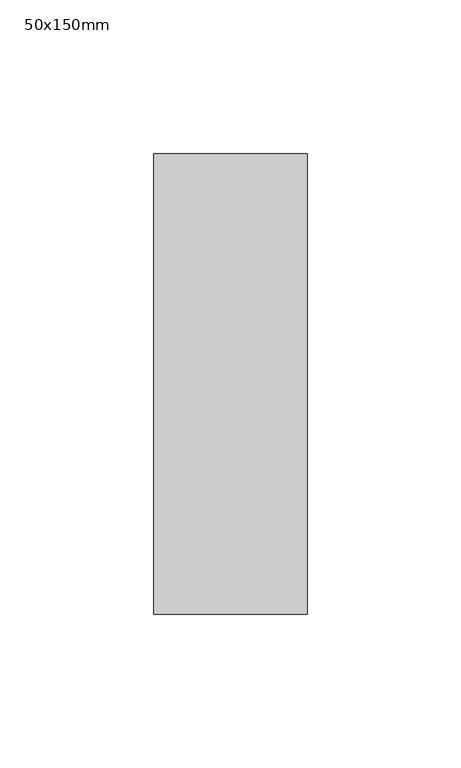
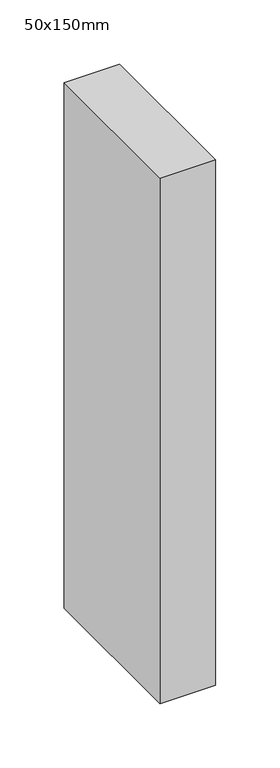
"""IFC4 building model written with IfcOpenShell, lengths in millimetres: member geometry, 長方形マリオン : 50x150mm."""

from ifc_helpers import new_model, si_unit, frame, origin, place, context, project, spatial, polyline, outline, extrude, source, transform, mapped, element, save


def member_50x150mm_b3666dbd(model_context):
    return source(origin(), model_context, "Body", "SweptSolid", [
        extrude(outline(polyline([(0.0, 75.0), (0.0, -75.0), (-50.0, -75.0), (-50.0, 75.0), (0.0, 75.0)])), frame((0.0, 0.0, -500.0), z_axis=(0.0, 0.0, 1.0), x_axis=(1.0, 0.0, 0.0)), (0.0, 0.0, 1.0), 500.0),
    ])


if __name__ == "__main__":
    model = new_model("IFC4")
    model_context = context("Model", 3, world=origin())
    ifc_project = project(units=[si_unit("LENGTHUNIT", "METRE", prefix="MILLI")], contexts=[model_context])
    site = spatial("IfcSite", under=ifc_project)
    building = spatial("IfcBuilding", under=site)
    placement = place(None, origin())
    member_50x150mm_shape = member_50x150mm_b3666dbd(model_context)
    element("IfcMember", 1, ObjectType="長方形マリオン : 50x150mm", at=placement, inside=building, context=model_context, shape_type="MappedRepresentation", body=[
        mapped(member_50x150mm_shape, transform((0.0, 0.0, 0.0), x_axis=(1.0, 0.0, 0.0), y_axis=(0.0, 1.0, 0.0), z_axis=(0.0, 0.0, 1.0))),
    ])
    save(model, "model.ifc")
